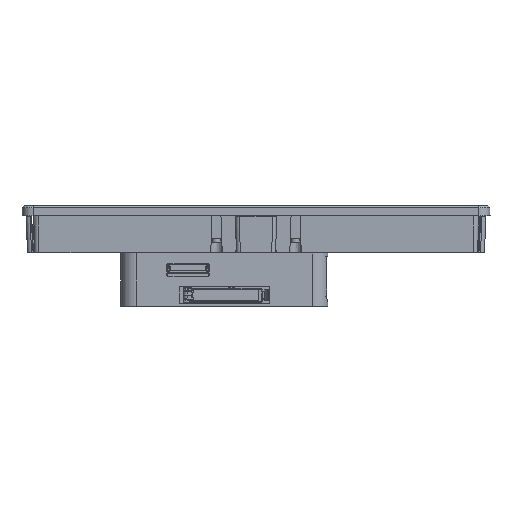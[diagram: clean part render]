
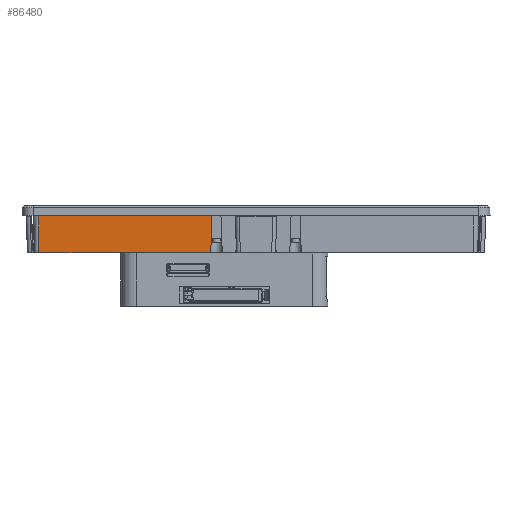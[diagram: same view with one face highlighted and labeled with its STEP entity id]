
A CAD part, left-side view. The second image highlights one B-rep face of the part: STEP entity #86480.
In plain terms, the highlighted planar face has unit normal (-0.999, 0, -0.035).
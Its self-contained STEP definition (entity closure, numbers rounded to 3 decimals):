
#4019 = ORIENTED_EDGE ( 'NONE', *, *, #78527, .T. ) ;
#7557 = VECTOR ( 'NONE', #76394, 1000. ) ;
#9986 = DIRECTION ( 'NONE',  ( 0.035, 0., -0.999 ) ) ;
#12268 = CARTESIAN_POINT ( 'NONE',  ( 7.866, 176.64, 34. ) ) ;
#14416 = CARTESIAN_POINT ( 'NONE',  ( 7.053, 175.826, 57.3 ) ) ;
#14929 = CARTESIAN_POINT ( 'NONE',  ( 7.053, 176.64, 57.3 ) ) ;
#15956 = VERTEX_POINT ( 'NONE', #87802 ) ;
#17580 = PLANE ( 'NONE',  #76281 ) ;
#20068 = ORIENTED_EDGE ( 'NONE', *, *, #62396, .T. ) ;
#23014 = LINE ( 'NONE', #14929, #7557 ) ;
#25229 = DIRECTION ( 'NONE',  ( -0.035, 0., 0.999 ) ) ;
#27717 = EDGE_LOOP ( 'NONE', ( #94105, #50909, #20068, #4019 ) ) ;
#32830 = DIRECTION ( 'NONE',  ( -0.999, 0., -0.035 ) ) ;
#37373 = VERTEX_POINT ( 'NONE', #43540 ) ;
#43540 = CARTESIAN_POINT ( 'NONE',  ( 7.866, 285.35, 34. ) ) ;
#46495 = DIRECTION ( 'NONE',  ( 0.035, 0.035, -0.999 ) ) ;
#49003 = EDGE_CURVE ( 'NONE', #61764, #56411, #49348, .T. ) ;
#49348 = LINE ( 'NONE', #60484, #66066 ) ;
#50909 = ORIENTED_EDGE ( 'NONE', *, *, #49003, .F. ) ;
#51971 = LINE ( 'NONE', #85784, #67448 ) ;
#55157 = VECTOR ( 'NONE', #70141, 1000. ) ;
#55459 = CARTESIAN_POINT ( 'NONE',  ( 7.866, 176.64, 34. ) ) ;
#56411 = VERTEX_POINT ( 'NONE', #12268 ) ;
#60484 = CARTESIAN_POINT ( 'NONE',  ( 7.053, 175.826, 57.3 ) ) ;
#61764 = VERTEX_POINT ( 'NONE', #14416 ) ;
#62396 = EDGE_CURVE ( 'NONE', #61764, #15956, #23014, .T. ) ;
#66066 = VECTOR ( 'NONE', #46495, 1000. ) ;
#67448 = VECTOR ( 'NONE', #9986, 1000. ) ;
#70141 = DIRECTION ( 'NONE',  ( 0., -1., 0. ) ) ;
#71013 = CARTESIAN_POINT ( 'NONE',  ( 7.866, 176.64, 34. ) ) ;
#76281 = AXIS2_PLACEMENT_3D ( 'NONE', #71013, #32830, #25229 ) ;
#76394 = DIRECTION ( 'NONE',  ( 0., 1., 0. ) ) ;
#78527 = EDGE_CURVE ( 'NONE', #15956, #37373, #51971, .T. ) ;
#78944 = LINE ( 'NONE', #55459, #55157 ) ;
#80538 = EDGE_CURVE ( 'NONE', #37373, #56411, #78944, .T. ) ;
#85784 = CARTESIAN_POINT ( 'NONE',  ( 7.866, 285.35, 34. ) ) ;
#86480 = ADVANCED_FACE ( 'NONE', ( #97664 ), #17580, .T. ) ;
#87802 = CARTESIAN_POINT ( 'NONE',  ( 7.053, 285.35, 57.3 ) ) ;
#94105 = ORIENTED_EDGE ( 'NONE', *, *, #80538, .T. ) ;
#97664 = FACE_OUTER_BOUND ( 'NONE', #27717, .T. ) ;
